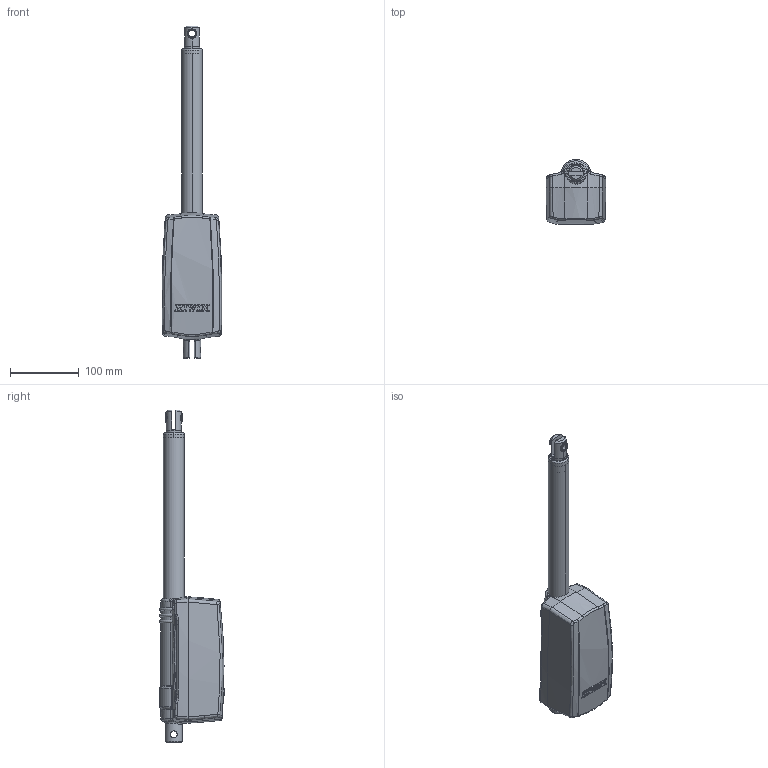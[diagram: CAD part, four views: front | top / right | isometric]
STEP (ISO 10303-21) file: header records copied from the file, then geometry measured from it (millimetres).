
FILE_DESCRIPTION((''),'2;1');
FILE_NAME('LAN4-S100_ASM','2007-07-12T',('amyliao'),(''),'PRO/ENGINEER BY PARAMETRIC TECHNOLOGY CORPORATION, 2003210','PRO/ENGINEER BY PARAMETRIC TECHNOLOGY CORPORATION, 2003210','');
FILE_SCHEMA(('CONFIG_CONTROL_DESIGN'));
Length unit declared in the file: millimetre
Products named in the file (9): COVER02; 04; 03; 01; 02; 05; N4-OUT-TUBE_ASM; COVER01; LAN4-S100_ASM
Assembly tree (9 placements, depth 3):
  LAN4-S100_ASM
    COVER02
    N4-OUT-TUBE_ASM
      04
      03
      01
      02
      05  x2
    COVER01
Bounding box: 86.98 x 94.2 x 482 mm (x, y, z)
Volume: 405796.7 mm3; surface area: 236806.7 mm2
Topology: 8 solids, 8 shells, 623 faces, 1609 edges, 1024 vertices
Faces by surface type: plane 213, cylinder 128, bspline 112, extrusion 92, cone 43, torus 19, sphere 16
Entity records: 25087 total; most frequent: CARTESIAN_POINT 11594, ORIENTED_EDGE 3174, DIRECTION 2073, EDGE_CURVE 1587, VERTEX_POINT 1010, B_SPLINE_CURVE_WITH_KNOTS 872, AXIS2_PLACEMENT_3D 742, EDGE_LOOP 661
